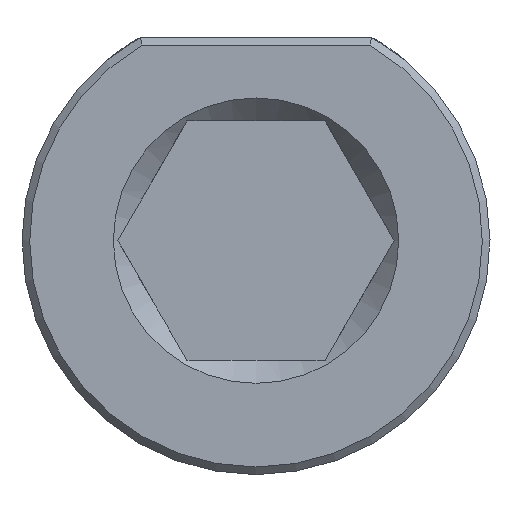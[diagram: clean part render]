
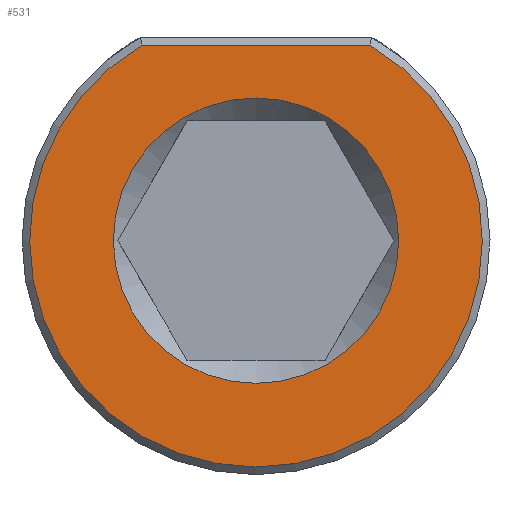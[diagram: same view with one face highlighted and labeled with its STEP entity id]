
A CAD part, front view. The second image highlights one B-rep face of the part: STEP entity #531.
In plain terms, the highlighted planar face has unit normal (0, -1, 0).
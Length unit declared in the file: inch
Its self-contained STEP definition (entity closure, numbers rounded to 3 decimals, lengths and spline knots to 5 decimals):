
#32=FACE_BOUND('',#108,.T.);
#39=PLANE('',#586);
#76=FACE_OUTER_BOUND('',#107,.T.);
#107=EDGE_LOOP('',(#397,#398));
#108=EDGE_LOOP('',(#399));
#139=LINE('',#857,#170);
#170=VECTOR('',#667,0.3937);
#203=CIRCLE('',#581,0.295);
#206=CIRCLE('',#587,0.186);
#232=VERTEX_POINT('',#841);
#233=VERTEX_POINT('',#842);
#243=VERTEX_POINT('',#894);
#291=EDGE_CURVE('',#232,#233,#203,.T.);
#296=EDGE_CURVE('',#233,#232,#139,.T.);
#305=EDGE_CURVE('',#243,#243,#206,.T.);
#397=ORIENTED_EDGE('',*,*,#291,.F.);
#398=ORIENTED_EDGE('',*,*,#296,.F.);
#399=ORIENTED_EDGE('',*,*,#305,.F.);
#531=ADVANCED_FACE('',(#76,#32),#39,.T.);
#581=AXIS2_PLACEMENT_3D('',#843,#660,#661);
#586=AXIS2_PLACEMENT_3D('',#893,#676,#677);
#587=AXIS2_PLACEMENT_3D('',#895,#678,#679);
#660=DIRECTION('center_axis',(0.,1.,0.));
#661=DIRECTION('ref_axis',(0.,0.,-1.));
#667=DIRECTION('',(1.,0.,0.));
#676=DIRECTION('center_axis',(0.,-1.,0.));
#677=DIRECTION('ref_axis',(0.,0.,-1.));
#678=DIRECTION('center_axis',(0.,-1.,0.));
#679=DIRECTION('ref_axis',(0.,0.,1.));
#841=CARTESIAN_POINT('',(0.14832,0.,0.255));
#842=CARTESIAN_POINT('',(-0.14832,0.,0.255));
#843=CARTESIAN_POINT('Origin',(0.,0.,0.));
#857=CARTESIAN_POINT('',(0.17712,0.,0.255));
#893=CARTESIAN_POINT('Origin',(0.,0.,-0.156));
#894=CARTESIAN_POINT('',(0.,0.,-0.186));
#895=CARTESIAN_POINT('Origin',(0.,0.,0.));
